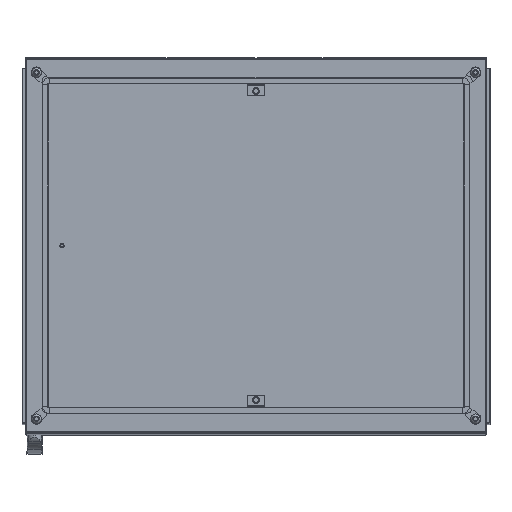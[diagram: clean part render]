
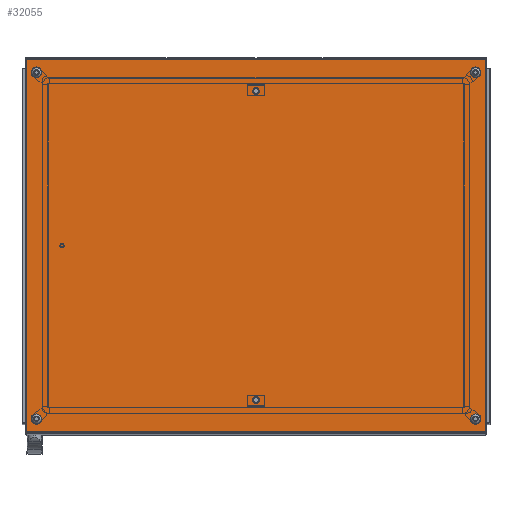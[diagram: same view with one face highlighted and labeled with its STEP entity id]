
A CAD part, top view. The second image highlights one B-rep face of the part: STEP entity #32055.
In plain terms, the highlighted planar face has unit normal (0, 0, 1).
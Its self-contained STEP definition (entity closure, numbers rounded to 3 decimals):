
#1544=CIRCLE('',#34377,7.321);
#1545=CIRCLE('',#34378,7.321);
#1546=CIRCLE('',#34379,6.);
#1547=CIRCLE('',#34380,6.);
#1548=CIRCLE('',#34381,6.);
#1549=CIRCLE('',#34382,6.);
#5639=ORIENTED_EDGE('',*,*,#13453,.F.);
#5640=ORIENTED_EDGE('',*,*,#13454,.F.);
#5641=ORIENTED_EDGE('',*,*,#13455,.F.);
#5642=ORIENTED_EDGE('',*,*,#13456,.F.);
#5643=ORIENTED_EDGE('',*,*,#13457,.F.);
#5644=ORIENTED_EDGE('',*,*,#13458,.F.);
#5645=ORIENTED_EDGE('',*,*,#13442,.T.);
#5646=ORIENTED_EDGE('',*,*,#13450,.T.);
#5647=ORIENTED_EDGE('',*,*,#13413,.F.);
#5648=ORIENTED_EDGE('',*,*,#13459,.F.);
#13413=EDGE_CURVE('',#17555,#17556,#20758,.T.);
#13442=EDGE_CURVE('',#17577,#17576,#20764,.T.);
#13450=EDGE_CURVE('',#17576,#17556,#20769,.T.);
#13453=EDGE_CURVE('',#17578,#17578,#1544,.T.);
#13454=EDGE_CURVE('',#17579,#17579,#1545,.T.);
#13455=EDGE_CURVE('',#17580,#17580,#1546,.T.);
#13456=EDGE_CURVE('',#17581,#17581,#1547,.T.);
#13457=EDGE_CURVE('',#17582,#17582,#1548,.T.);
#13458=EDGE_CURVE('',#17583,#17583,#1549,.T.);
#13459=EDGE_CURVE('',#17577,#17555,#20772,.T.);
#17555=VERTEX_POINT('',#49799);
#17556=VERTEX_POINT('',#49801);
#17576=VERTEX_POINT('',#49875);
#17577=VERTEX_POINT('',#49877);
#17578=VERTEX_POINT('',#49894);
#17579=VERTEX_POINT('',#49896);
#17580=VERTEX_POINT('',#49898);
#17581=VERTEX_POINT('',#49900);
#17582=VERTEX_POINT('',#49902);
#17583=VERTEX_POINT('',#49904);
#20758=LINE('',#49800,#23529);
#20764=LINE('',#49876,#23535);
#20769=LINE('',#49888,#23540);
#20772=LINE('',#49905,#23543);
#23529=VECTOR('',#39817,1000.);
#23535=VECTOR('',#39871,1000.);
#23540=VECTOR('',#39888,1000.);
#23543=VECTOR('',#39907,1000.);
#25970=EDGE_LOOP('',(#5639));
#25971=EDGE_LOOP('',(#5640));
#25972=EDGE_LOOP('',(#5641));
#25973=EDGE_LOOP('',(#5642));
#25974=EDGE_LOOP('',(#5643));
#25975=EDGE_LOOP('',(#5644));
#25976=EDGE_LOOP('',(#5645,#5646,#5647,#5648));
#28656=FACE_BOUND('',#25970,.T.);
#28657=FACE_BOUND('',#25971,.T.);
#28658=FACE_BOUND('',#25972,.T.);
#28659=FACE_BOUND('',#25973,.T.);
#28660=FACE_BOUND('',#25974,.T.);
#28661=FACE_BOUND('',#25975,.T.);
#28662=FACE_BOUND('',#25976,.T.);
#30995=PLANE('',#34376);
#32055=ADVANCED_FACE('',(#28656,#28657,#28658,#28659,#28660,#28661,#28662),
#30995,.T.);
#34376=AXIS2_PLACEMENT_3D('',#49892,#39893,#39894);
#34377=AXIS2_PLACEMENT_3D('',#49893,#39895,#39896);
#34378=AXIS2_PLACEMENT_3D('',#49895,#39897,#39898);
#34379=AXIS2_PLACEMENT_3D('',#49897,#39899,#39900);
#34380=AXIS2_PLACEMENT_3D('',#49899,#39901,#39902);
#34381=AXIS2_PLACEMENT_3D('',#49901,#39903,#39904);
#34382=AXIS2_PLACEMENT_3D('',#49903,#39905,#39906);
#39817=DIRECTION('',(-1.,0.,0.));
#39871=DIRECTION('',(-1.,0.,0.));
#39888=DIRECTION('',(0.,-1.,0.));
#39893=DIRECTION('',(0.,0.,1.));
#39894=DIRECTION('',(1.,0.,0.));
#39895=DIRECTION('',(0.,0.,1.));
#39896=DIRECTION('',(1.,0.,0.));
#39897=DIRECTION('',(0.,0.,1.));
#39898=DIRECTION('',(1.,0.,0.));
#39899=DIRECTION('',(0.,0.,1.));
#39900=DIRECTION('',(1.,0.,0.));
#39901=DIRECTION('',(0.,0.,1.));
#39902=DIRECTION('',(1.,0.,0.));
#39903=DIRECTION('',(0.,0.,1.));
#39904=DIRECTION('',(1.,0.,0.));
#39905=DIRECTION('',(0.,0.,1.));
#39906=DIRECTION('',(1.,0.,0.));
#39907=DIRECTION('',(0.,-1.,0.));
#49799=CARTESIAN_POINT('',(496.5,-402.5,20.));
#49800=CARTESIAN_POINT('',(500.,-402.5,20.));
#49801=CARTESIAN_POINT('',(-496.5,-402.5,20.));
#49875=CARTESIAN_POINT('',(-496.5,402.5,20.));
#49876=CARTESIAN_POINT('',(500.,402.5,20.));
#49877=CARTESIAN_POINT('',(496.5,402.5,20.));
#49888=CARTESIAN_POINT('',(-496.5,405.5,20.));
#49892=CARTESIAN_POINT('',(-496.5,-402.5,20.));
#49893=CARTESIAN_POINT('',(0.,-334.,20.));
#49894=CARTESIAN_POINT('',(7.321,-334.,20.));
#49895=CARTESIAN_POINT('',(0.,334.,20.));
#49896=CARTESIAN_POINT('',(7.321,334.,20.));
#49897=CARTESIAN_POINT('',(474.5,-374.5,20.));
#49898=CARTESIAN_POINT('',(480.5,-374.5,20.));
#49899=CARTESIAN_POINT('',(-474.5,374.5,20.));
#49900=CARTESIAN_POINT('',(-468.5,374.5,20.));
#49901=CARTESIAN_POINT('',(474.5,374.5,20.));
#49902=CARTESIAN_POINT('',(480.5,374.5,20.));
#49903=CARTESIAN_POINT('',(-474.5,-374.5,20.));
#49904=CARTESIAN_POINT('',(-468.5,-374.5,20.));
#49905=CARTESIAN_POINT('',(496.5,405.5,20.));
